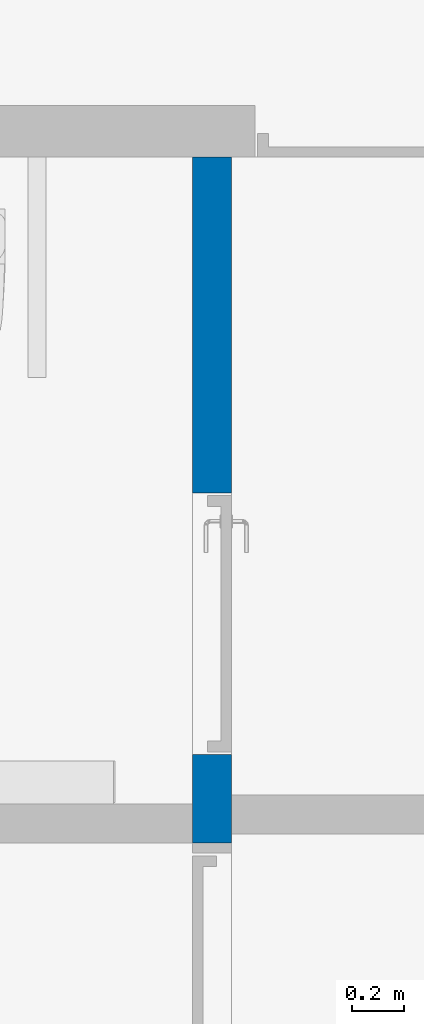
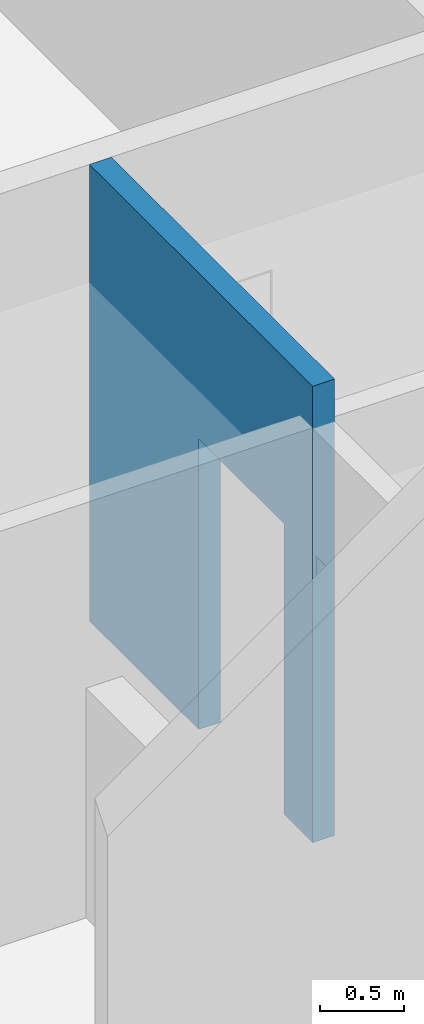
# One storey, part 25 of 58: 1 wall, 2 openings.
"""IFC2X3 building model written with IfcOpenShell, lengths in millimetres."""

from ifc_helpers import new_model, entity, si_unit, converted_unit, derived_unit, direction, frame, frame_2d, origin, origin_2d_with_axis, place, context, subcontext, project, spatial, rectangle, extrude, material, layer, layer_set, layer_usage, type_object, element, save


model = new_model("IFC2X3")

# Units and contexts
model_context = context("Model", 3, precision=0.01, world=origin(), true_north=direction((0.7716245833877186, 0.6360782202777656)))
body_context = subcontext(model_context, "Body", "Model", "MODEL_VIEW")
ifc_project = project(units=[si_unit("LENGTHUNIT", "METRE", prefix="MILLI"), si_unit("AREAUNIT", "SQUARE_METRE"), converted_unit("PLANEANGLEUNIT", "DEGREE", entity("IfcPlaneAngleMeasure", 0.017453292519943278), si_unit("PLANEANGLEUNIT", "RADIAN"), dimensions=[0, 0, 0, 0, 0, 0, 0]), derived_unit("THERMALTRANSMITTANCEUNIT", [(si_unit("MASSUNIT", "GRAM", prefix="KILO"), 1), (si_unit("THERMODYNAMICTEMPERATUREUNIT", "KELVIN"), -1), (si_unit("TIMEUNIT", "SECOND"), -3)])], contexts=[model_context])

# Site, building, storey
site_placement = place(None, origin())
site = spatial("IfcSite", under=ifc_project, at=site_placement, Name="Default", CompositionType="ELEMENT")
building_placement = place(site_placement, origin())
building = spatial("IfcBuilding", under=site, at=building_placement, CompositionType="ELEMENT")
storey_placement = place(building_placement, frame((0.0, 0.0, 31140.0)))
storey = spatial("IfcBuildingStorey", under=building, at=storey_placement, Name="PLAN U1", CompositionType="ELEMENT", Elevation=31140.000000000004)

# Wall, openings
ifc_material = material(Name="Eksist. vegg")
ifc_layer = layer(ifc_material, 150.0)
ifc_layer_set = layer_set([ifc_layer], Name="Basic Wall:240 Eksist. Innervegg 150 mm")
ifc_layer_usage = layer_usage(ifc_layer_set, "AXIS2", "NEGATIVE", 75.0)
wall_type = type_object("IfcWallType", Name="Basic Wall:240 Eksist. Innervegg 150 mm", PredefinedType="STANDARD", material=ifc_layer_set)
wall_placement = place(storey_placement, frame((261192.9244464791, 62570.72307172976, 0.0), z_axis=(0.0, 0.0, 1.0), x_axis=(0.0, 1.0, 0.0)))
wall = element("IfcWallStandardCase", 1, at=wall_placement, inside=storey, type_object=wall_type, material=ifc_layer_usage, Name="Basic Wall:240 Eksist. Innervegg 150 mm", ObjectType="Basic Wall:240 Eksist. Innervegg 150 mm", context=body_context, shape_type="SweptSolid", body=[
    extrude(rectangle(XDim=2644.5324783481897, YDim=150.00000000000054, at=frame_2d((1322.2662391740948, 0.0), x_axis=(1.0, 0.0))), origin(), (0.0, 0.0, 1.0), 3299.999999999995),
])
opening_1_placement = place(wall_placement, frame((1350.0, 75.0, 0.0)))
element("IfcOpeningElement", 2, at=opening_1_placement, cuts=wall, Name="Enfløyet:2441 Innvendig 10x21M:1", ObjectType="Opening", context=body_context, shape_type="SweptSolid", body=[
    extrude(rectangle(XDim=2100.0, YDim=1009.9999999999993, at=frame_2d((1049.9999999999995, 504.99999999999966), x_axis=(1.0, 0.0))), frame((0.0, 0.0, 0.0), z_axis=(0.0, -1.0, 0.0), x_axis=(0.0, 0.0, 1.0)), (0.0, 0.0, 1.0), 150.0),
])
opening_2_placement = place(wall_placement, frame((-62570.72307172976, 261192.9244464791, 0.0), z_axis=(0.0, 0.0, 1.0), x_axis=(0.0, -1.0, 0.0)))
element("IfcOpeningElement", 3, at=opening_2_placement, cuts=wall, Name="Basic Wall:240 Eksist. Innervegg 150 mm", ObjectType="Opening", context=body_context, shape_type="SweptSolid", body=[
    extrude(rectangle(XDim=2099.999999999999, YDim=1009.9999999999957, at=origin_2d_with_axis()), frame((262641.9244464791, 63415.72307172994, 1050.0), z_axis=(-1.0, 0.0, 0.0), x_axis=(0.0, 0.0, 1.0)), (0.0, 0.0, 1.0), 3048.0),
])

save(model, "model.ifc")
